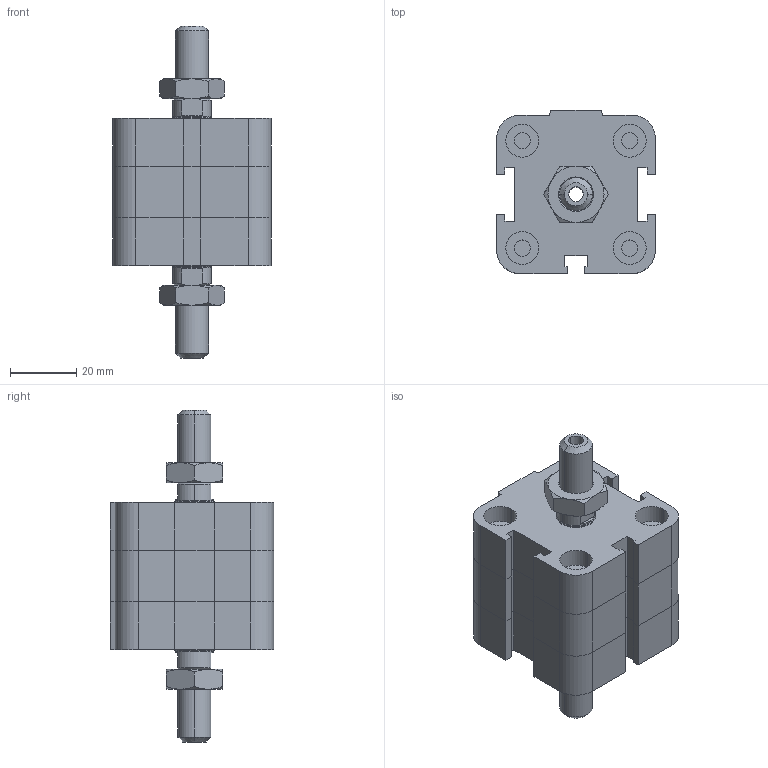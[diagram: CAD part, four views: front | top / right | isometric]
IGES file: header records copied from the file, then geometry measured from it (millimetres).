
Global section: file name: No Iges File Name specified; native system: Autodesk Inventor 2009; preprocessor: AutoDesk Inventor Iges Exporter R2009; author: maffial1; date: 20090420.142501; units: millimetre
Bounding box: 48 x 49.5 x 100.5 mm (x, y, z)
Volume: 92164.8 mm3; surface area: 26164.2 mm2
Topology: 4 solids, 4 shells, 262 faces, 580 edges, 346 vertices
Faces by surface type: plane 129, bspline 53, cone 38, cylinder 22, revolution 20
